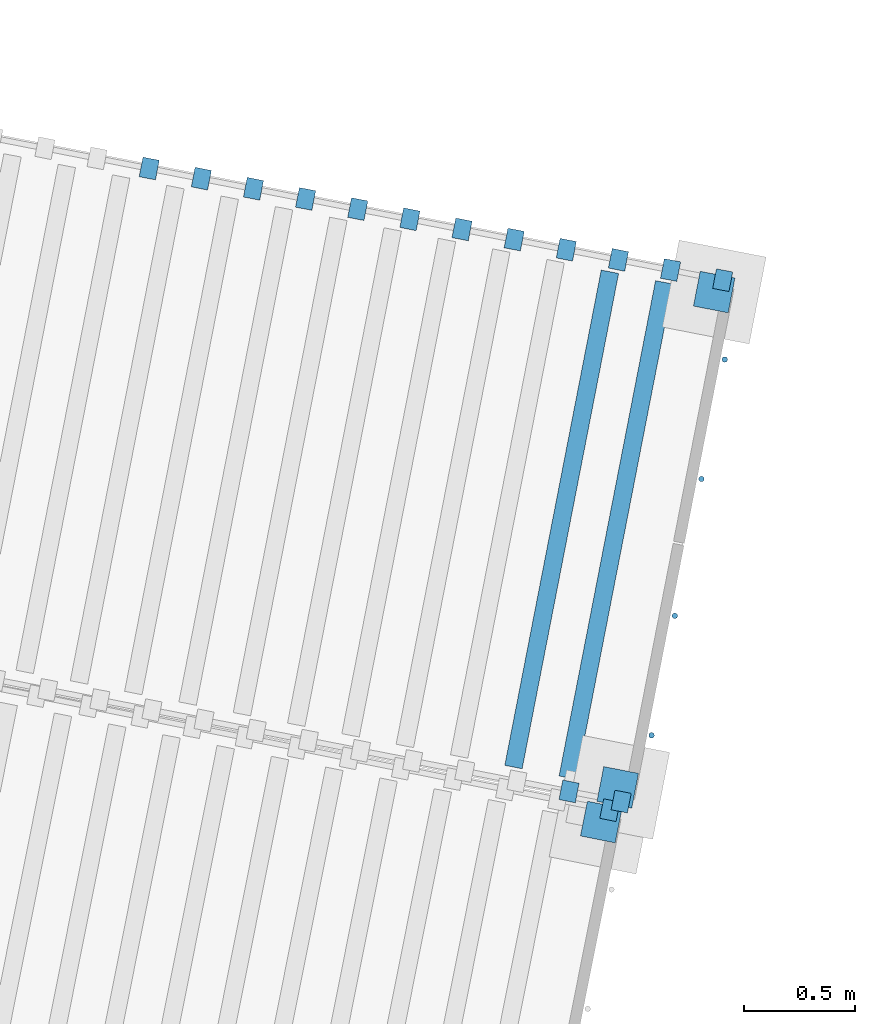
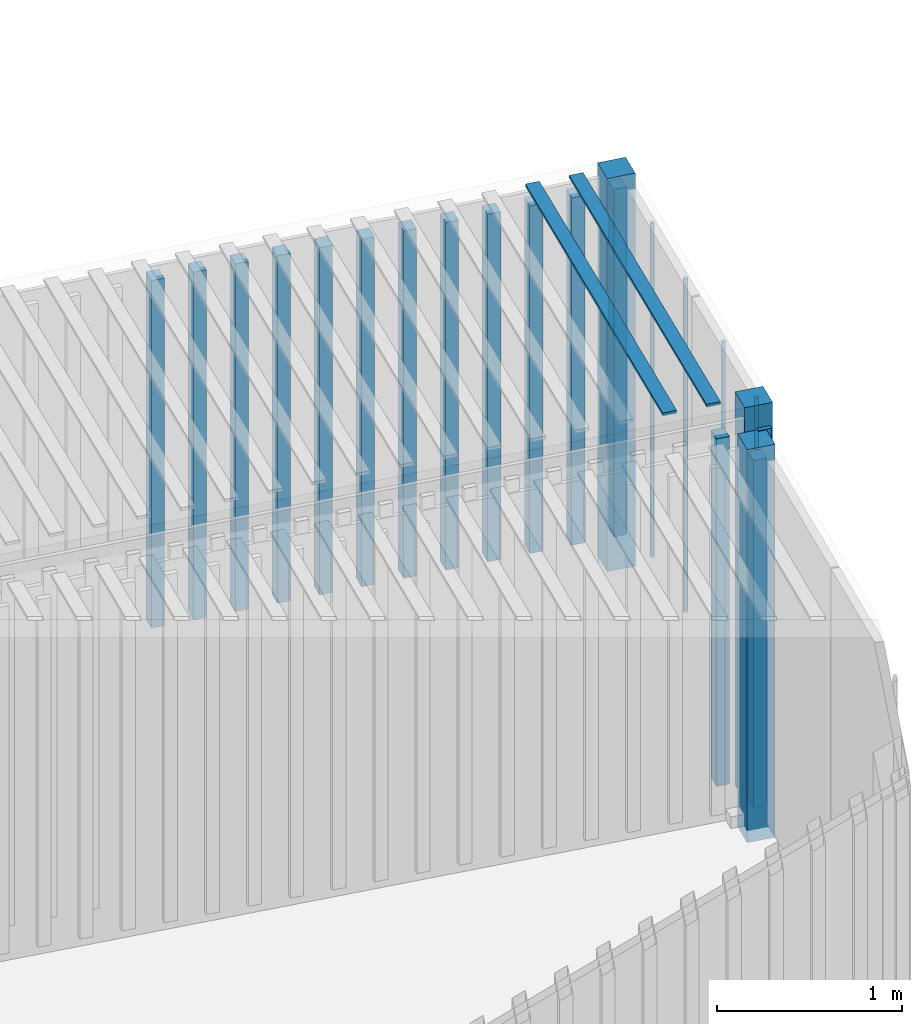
# One storey, part 84 of 142: 24 members, 2 elements without a shape of their own.
"""IFC4 building model written with IfcOpenShell, lengths in metres."""

from ifc_helpers import new_model, si_unit, direction, frame, origin_with_axes, place, context, subcontext, project, spatial, polyline, circle, outline, extrude, material, material_profile, profile_set, profile_usage, type_object, element, aggregate, save


model = new_model("IFC4")

# Units and contexts
model_context = context("Model", 3, precision=1e-05, world=origin_with_axes(), true_north=direction((0.0, 1.0)))
body_context = subcontext(model_context, "Body", "Model", "MODEL_VIEW")
ifc_project = project(units=[si_unit("LENGTHUNIT", "METRE"), si_unit("AREAUNIT", "SQUARE_METRE"), si_unit("VOLUMEUNIT", "CUBIC_METRE")], contexts=[model_context])

# Site, building, storey
site_placement = place(None, origin_with_axes())
site = spatial("IfcSite", under=ifc_project, at=site_placement, Name="Lares · Rua das Mercês · artigo 4771")
building_placement = place(site_placement, frame((15.0, 9.7, 14.65), z_axis=(0.0, 0.0, 1.0), x_axis=(0.989015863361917, -0.147809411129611, 0.0)))
building = spatial("IfcBuilding", under=site, at=building_placement, Name="Casa Sobreposta")
storey_placement = place(building_placement, origin_with_axes())
storey = spatial("IfcBuildingStorey", under=building, at=storey_placement, Name="00 · Habitação e estacionamento", Elevation=14.65)

# Assembly, members
assembly_1_placement = place(storey_placement, frame((-14.4335953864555, 9.04888612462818, 0.0), z_axis=(0.0, 0.0, 1.0), x_axis=(0.999032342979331, -0.0439815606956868, 0.0)))
assembly_1 = element("IfcElementAssembly", 1, at=assembly_1_placement, inside=storey, Name="Contentor existente 1 · 6 m", ObjectType="EXISTING_SHIPPING_CONTAINER", PredefinedType="USERDEFINED")
ifc_material_1 = material(Name="Aço galvanizado / Stahl verzinkt", Category="steel")
ifc_material_profile = material_profile(ifc_material_1, circle(Radius=0.0125))
ifc_profile_set = profile_set([ifc_material_profile], Name="D0.025")
ifc_profile_usage_1 = profile_usage(ifc_profile_set)
member_type = type_object("IfcMemberType", Name="D0.025 / galvanized", PredefinedType="NOTDEFINED", material=ifc_profile_set)
member_1_placement = place(assembly_1_placement, frame((6.025, 0.34, -0.813141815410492), z_axis=(0.0, 0.0, 1.0), x_axis=(1.0, 0.0, 0.0)))
member_1 = element("IfcMember", 2, at=member_1_placement, type_object=member_type, material=ifc_profile_usage_1, Name="Contentor · varão de fecho", context=body_context, shape_type="SweptSolid", body=[
    extrude(circle(Radius=0.0125), origin_with_axes(), (0.0, 0.0, 1.0), 2.2),
])
ifc_profile_usage_2 = profile_usage(ifc_profile_set)
member_2_placement = place(assembly_1_placement, frame((6.025, 0.89, -0.813141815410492), z_axis=(0.0, 0.0, 1.0), x_axis=(1.0, 0.0, 0.0)))
member_2 = element("IfcMember", 3, at=member_2_placement, type_object=member_type, material=ifc_profile_usage_2, Name="Contentor · varão de fecho", context=body_context, shape_type="SweptSolid", body=[
    extrude(circle(Radius=0.0125), origin_with_axes(), (0.0, 0.0, 1.0), 2.2),
])
ifc_profile_usage_3 = profile_usage(ifc_profile_set)
member_3_placement = place(assembly_1_placement, frame((6.025, 1.52, -0.813141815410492), z_axis=(0.0, 0.0, 1.0), x_axis=(1.0, 0.0, 0.0)))
member_3 = element("IfcMember", 4, at=member_3_placement, type_object=member_type, material=ifc_profile_usage_3, Name="Contentor · varão de fecho", context=body_context, shape_type="SweptSolid", body=[
    extrude(circle(Radius=0.0125), origin_with_axes(), (0.0, 0.0, 1.0), 2.2),
])
ifc_profile_usage_4 = profile_usage(ifc_profile_set)
member_4_placement = place(assembly_1_placement, frame((6.025, 2.07, -0.813141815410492), z_axis=(0.0, 0.0, 1.0), x_axis=(1.0, 0.0, 0.0)))
member_4 = element("IfcMember", 5, at=member_4_placement, type_object=member_type, material=ifc_profile_usage_4, Name="Contentor · varão de fecho", context=body_context, shape_type="SweptSolid", body=[
    extrude(circle(Radius=0.0125), origin_with_axes(), (0.0, 0.0, 1.0), 2.2),
])
ifc_material_2 = material(Name="Contentor · pintura 1", Category="steel")
member_5_placement = place(assembly_1_placement, frame((0.0, 0.0, -1.01314181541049), z_axis=(0.0, 0.0, 1.0), x_axis=(1.0, 0.0, 0.0)))
member_5 = element("IfcMember", 6, at=member_5_placement, material=ifc_material_2, Name="Contentor · canto", context=body_context, shape_type="SweptSolid", body=[
    extrude(outline(polyline([(6.0, 0.0), (6.0, 0.16), (5.84, 0.16), (5.84, 0.0), (6.0, 0.0)])), origin_with_axes(), (0.0, 0.0, 1.0), 2.59),
])
member_6_placement = place(assembly_1_placement, frame((0.0, 0.0, -1.01314181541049), z_axis=(0.0, 0.0, 1.0), x_axis=(1.0, 0.0, 0.0)))
member_6 = element("IfcMember", 7, at=member_6_placement, material=ifc_material_2, Name="Contentor · canto", context=body_context, shape_type="SweptSolid", body=[
    extrude(outline(polyline([(6.0, 2.28), (6.0, 2.44), (5.84, 2.44), (5.84, 2.28), (6.0, 2.28)])), origin_with_axes(), (0.0, 0.0, 1.0), 2.59),
])
member_7_placement = place(assembly_1_placement, frame((0.0, 0.0, -0.863141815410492), z_axis=(0.0, 0.0, 1.0), x_axis=(1.0, 0.0, 0.0)))
member_7 = element("IfcMember", 8, at=member_7_placement, material=ifc_material_2, Name="Contentor · nervura lateral", context=body_context, shape_type="SweptSolid", body=[
    extrude(outline(polyline([(5.745, -0.025), (5.745, 0.065), (5.67, 0.065), (5.67, -0.025), (5.745, -0.025)])), origin_with_axes(), (0.0, 0.0, 1.0), 2.29),
])
member_8_placement = place(assembly_1_placement, frame((0.0, 0.0, -0.863141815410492), z_axis=(0.0, 0.0, 1.0), x_axis=(1.0, 0.0, 0.0)))
member_8 = element("IfcMember", 9, at=member_8_placement, material=ifc_material_2, Name="Contentor · nervura lateral", context=body_context, shape_type="SweptSolid", body=[
    extrude(outline(polyline([(5.985, -0.025), (5.985, 0.065), (5.91, 0.065), (5.91, -0.025), (5.985, -0.025)])), origin_with_axes(), (0.0, 0.0, 1.0), 2.29),
])
member_9_placement = place(assembly_1_placement, frame((0.0, 0.0, -0.863141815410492), z_axis=(0.0, 0.0, 1.0), x_axis=(1.0, 0.0, 0.0)))
member_9 = element("IfcMember", 10, at=member_9_placement, material=ifc_material_2, Name="Contentor · nervura lateral", context=body_context, shape_type="SweptSolid", body=[
    extrude(outline(polyline([(3.345, 2.375), (3.345, 2.465), (3.27, 2.465), (3.27, 2.375), (3.345, 2.375)])), origin_with_axes(), (0.0, 0.0, 1.0), 2.29),
])
member_10_placement = place(assembly_1_placement, frame((0.0, 0.0, -0.863141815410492), z_axis=(0.0, 0.0, 1.0), x_axis=(1.0, 0.0, 0.0)))
member_10 = element("IfcMember", 11, at=member_10_placement, material=ifc_material_2, Name="Contentor · nervura lateral", context=body_context, shape_type="SweptSolid", body=[
    extrude(outline(polyline([(3.585, 2.375), (3.585, 2.465), (3.51, 2.465), (3.51, 2.375), (3.585, 2.375)])), origin_with_axes(), (0.0, 0.0, 1.0), 2.29),
])
member_11_placement = place(assembly_1_placement, frame((0.0, 0.0, -0.863141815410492), z_axis=(0.0, 0.0, 1.0), x_axis=(1.0, 0.0, 0.0)))
member_11 = element("IfcMember", 12, at=member_11_placement, material=ifc_material_2, Name="Contentor · nervura lateral", context=body_context, shape_type="SweptSolid", body=[
    extrude(outline(polyline([(3.825, 2.375), (3.825, 2.465), (3.75, 2.465), (3.75, 2.375), (3.825, 2.375)])), origin_with_axes(), (0.0, 0.0, 1.0), 2.29),
])
member_12_placement = place(assembly_1_placement, frame((0.0, 0.0, -0.863141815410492), z_axis=(0.0, 0.0, 1.0), x_axis=(1.0, 0.0, 0.0)))
member_12 = element("IfcMember", 13, at=member_12_placement, material=ifc_material_2, Name="Contentor · nervura lateral", context=body_context, shape_type="SweptSolid", body=[
    extrude(outline(polyline([(4.065, 2.375), (4.065, 2.465), (3.99, 2.465), (3.99, 2.375), (4.065, 2.375)])), origin_with_axes(), (0.0, 0.0, 1.0), 2.29),
])
member_13_placement = place(assembly_1_placement, frame((0.0, 0.0, -0.863141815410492), z_axis=(0.0, 0.0, 1.0), x_axis=(1.0, 0.0, 0.0)))
member_13 = element("IfcMember", 14, at=member_13_placement, material=ifc_material_2, Name="Contentor · nervura lateral", context=body_context, shape_type="SweptSolid", body=[
    extrude(outline(polyline([(4.305, 2.375), (4.305, 2.465), (4.23, 2.465), (4.23, 2.375), (4.305, 2.375)])), origin_with_axes(), (0.0, 0.0, 1.0), 2.29),
])
member_14_placement = place(assembly_1_placement, frame((0.0, 0.0, -0.863141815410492), z_axis=(0.0, 0.0, 1.0), x_axis=(1.0, 0.0, 0.0)))
member_14 = element("IfcMember", 15, at=member_14_placement, material=ifc_material_2, Name="Contentor · nervura lateral", context=body_context, shape_type="SweptSolid", body=[
    extrude(outline(polyline([(4.545, 2.375), (4.545, 2.465), (4.47, 2.465), (4.47, 2.375), (4.545, 2.375)])), origin_with_axes(), (0.0, 0.0, 1.0), 2.29),
])
member_15_placement = place(assembly_1_placement, frame((0.0, 0.0, -0.863141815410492), z_axis=(0.0, 0.0, 1.0), x_axis=(1.0, 0.0, 0.0)))
member_15 = element("IfcMember", 16, at=member_15_placement, material=ifc_material_2, Name="Contentor · nervura lateral", context=body_context, shape_type="SweptSolid", body=[
    extrude(outline(polyline([(4.785, 2.375), (4.785, 2.465), (4.71, 2.465), (4.71, 2.375), (4.785, 2.375)])), origin_with_axes(), (0.0, 0.0, 1.0), 2.29),
])
member_16_placement = place(assembly_1_placement, frame((0.0, 0.0, -0.863141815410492), z_axis=(0.0, 0.0, 1.0), x_axis=(1.0, 0.0, 0.0)))
member_16 = element("IfcMember", 17, at=member_16_placement, material=ifc_material_2, Name="Contentor · nervura lateral", context=body_context, shape_type="SweptSolid", body=[
    extrude(outline(polyline([(5.025, 2.375), (5.025, 2.465), (4.95, 2.465), (4.95, 2.375), (5.025, 2.375)])), origin_with_axes(), (0.0, 0.0, 1.0), 2.29),
])
member_17_placement = place(assembly_1_placement, frame((0.0, 0.0, -0.863141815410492), z_axis=(0.0, 0.0, 1.0), x_axis=(1.0, 0.0, 0.0)))
member_17 = element("IfcMember", 18, at=member_17_placement, material=ifc_material_2, Name="Contentor · nervura lateral", context=body_context, shape_type="SweptSolid", body=[
    extrude(outline(polyline([(5.265, 2.375), (5.265, 2.465), (5.19, 2.465), (5.19, 2.375), (5.265, 2.375)])), origin_with_axes(), (0.0, 0.0, 1.0), 2.29),
])
member_18_placement = place(assembly_1_placement, frame((0.0, 0.0, -0.863141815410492), z_axis=(0.0, 0.0, 1.0), x_axis=(1.0, 0.0, 0.0)))
member_18 = element("IfcMember", 19, at=member_18_placement, material=ifc_material_2, Name="Contentor · nervura lateral", context=body_context, shape_type="SweptSolid", body=[
    extrude(outline(polyline([(5.505, 2.375), (5.505, 2.465), (5.43, 2.465), (5.43, 2.375), (5.505, 2.375)])), origin_with_axes(), (0.0, 0.0, 1.0), 2.29),
])
member_19_placement = place(assembly_1_placement, frame((0.0, 0.0, -0.863141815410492), z_axis=(0.0, 0.0, 1.0), x_axis=(1.0, 0.0, 0.0)))
member_19 = element("IfcMember", 20, at=member_19_placement, material=ifc_material_2, Name="Contentor · nervura lateral", context=body_context, shape_type="SweptSolid", body=[
    extrude(outline(polyline([(5.745, 2.375), (5.745, 2.465), (5.67, 2.465), (5.67, 2.375), (5.745, 2.375)])), origin_with_axes(), (0.0, 0.0, 1.0), 2.29),
])
member_20_placement = place(assembly_1_placement, frame((0.0, 0.0, -0.863141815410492), z_axis=(0.0, 0.0, 1.0), x_axis=(1.0, 0.0, 0.0)))
member_20 = element("IfcMember", 21, at=member_20_placement, material=ifc_material_2, Name="Contentor · nervura lateral", context=body_context, shape_type="SweptSolid", body=[
    extrude(outline(polyline([(5.985, 2.375), (5.985, 2.465), (5.91, 2.465), (5.91, 2.375), (5.985, 2.375)])), origin_with_axes(), (0.0, 0.0, 1.0), 2.29),
])
member_21_placement = place(assembly_1_placement, frame((0.0, 0.0, 1.57185818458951), z_axis=(0.0, 0.0, 1.0), x_axis=(1.0, 0.0, 0.0)))
member_21 = element("IfcMember", 22, at=member_21_placement, material=ifc_material_2, Name="Contentor · nervura cobertura", context=body_context, shape_type="SweptSolid", body=[
    extrude(outline(polyline([(5.48, 0.08), (5.48, 2.36), (5.4, 2.36), (5.4, 0.08), (5.48, 0.08)])), origin_with_axes(), (0.0, 0.0, 1.0), 0.018),
])
member_22_placement = place(assembly_1_placement, frame((0.0, 0.0, 1.57185818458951), z_axis=(0.0, 0.0, 1.0), x_axis=(1.0, 0.0, 0.0)))
member_22 = element("IfcMember", 23, at=member_22_placement, material=ifc_material_2, Name="Contentor · nervura cobertura", context=body_context, shape_type="SweptSolid", body=[
    extrude(outline(polyline([(5.73, 0.08), (5.73, 2.36), (5.65, 2.36), (5.65, 0.08), (5.73, 0.08)])), origin_with_axes(), (0.0, 0.0, 1.0), 0.018),
])
aggregate(assembly_1, [member_5, member_6, member_7, member_8, member_9, member_10, member_11, member_12, member_13, member_14, member_15, member_16, member_17, member_18, member_19, member_20, member_1, member_2, member_3, member_4, member_21, member_22])

assembly_2_placement = place(storey_placement, frame((-14.5932944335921, 6.63122214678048, 0.0), z_axis=(0.0, 0.0, 1.0), x_axis=(0.998832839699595, -0.0483007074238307, 0.0)))
assembly_2 = element("IfcElementAssembly", 24, at=assembly_2_placement, inside=storey, Name="Contentor existente 2 · 6 m", ObjectType="EXISTING_SHIPPING_CONTAINER", PredefinedType="USERDEFINED")
ifc_material_3 = material(Name="Contentor · pintura 2", Category="steel")
member_23_placement = place(assembly_2_placement, frame((0.0, 0.0, -1.16875169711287), z_axis=(0.0, 0.0, 1.0), x_axis=(1.0, 0.0, 0.0)))
member_23 = element("IfcMember", 25, at=member_23_placement, material=ifc_material_3, Name="Contentor · canto", context=body_context, shape_type="SweptSolid", body=[
    extrude(outline(polyline([(6.0, 2.28), (6.0, 2.44), (5.84, 2.44), (5.84, 2.28), (6.0, 2.28)])), origin_with_axes(), (0.0, 0.0, 1.0), 2.59),
])
member_24_placement = place(assembly_2_placement, frame((0.0, 0.0, -1.01875169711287), z_axis=(0.0, 0.0, 1.0), x_axis=(1.0, 0.0, 0.0)))
member_24 = element("IfcMember", 26, at=member_24_placement, material=ifc_material_3, Name="Contentor · nervura lateral", context=body_context, shape_type="SweptSolid", body=[
    extrude(outline(polyline([(5.985, 2.375), (5.985, 2.465), (5.91, 2.465), (5.91, 2.375), (5.985, 2.375)])), origin_with_axes(), (0.0, 0.0, 1.0), 2.29),
])
aggregate(assembly_2, [member_23, member_24])

save(model, "model.ifc")
